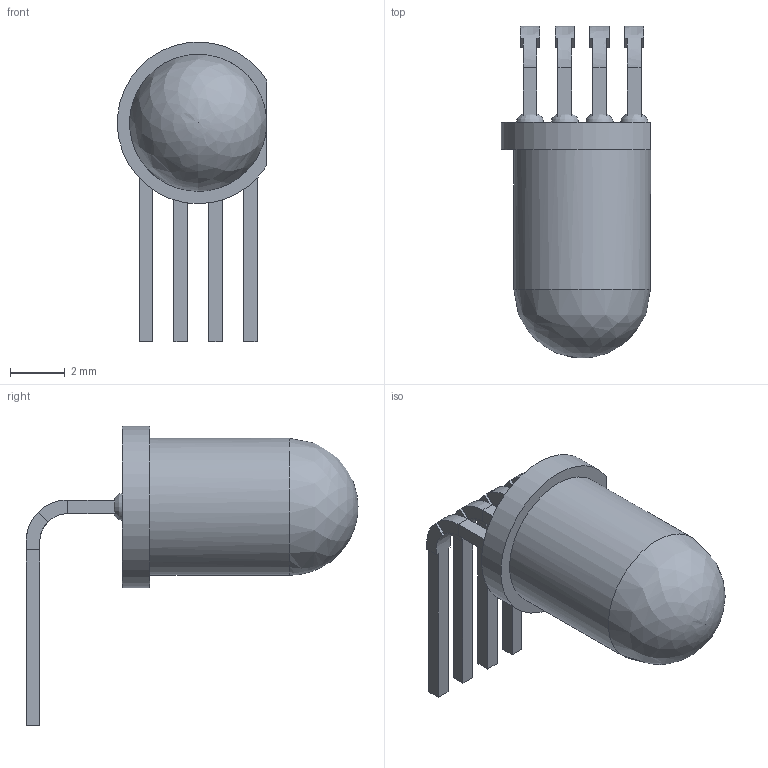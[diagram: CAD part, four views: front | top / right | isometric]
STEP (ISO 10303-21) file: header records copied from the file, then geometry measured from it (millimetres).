
FILE_DESCRIPTION(/* description */ (''),/* implementation_level */ '2;1');
FILE_NAME(/* name */ 'LEBA39~1',/* time_stamp */ '2022-11-08T16:30:40+01:00',/* author */ (''),/* organization */ (''),/* preprocessor_version */ 'ST-DEVELOPER v16.5',/* originating_system */ '',/* authorisation */ '');
FILE_SCHEMA (('AUTOMOTIVE_DESIGN'));
Length unit declared in the file: millimetre
Products named in the file (1): Document
Bounding box: 5.45 x 12.12 x 10.95 mm (x, y, z)
Volume: 160.1 mm3; surface area: 275.5 mm2
Topology: 1 solids, 6 shells, 80 faces, 205 edges, 131 vertices
Faces by surface type: plane 48, bspline 29, cylinder 3
Full cylindrical faces by diameter (mm): 5 x1
Entity records: 4851 total; most frequent: CARTESIAN_POINT 3442, ORIENTED_EDGE 383, EDGE_CURVE 200, B_SPLINE_CURVE_WITH_KNOTS 179, VERTEX_POINT 131, EDGE_LOOP 84, ADVANCED_FACE 80, FACE_OUTER_BOUND 80
